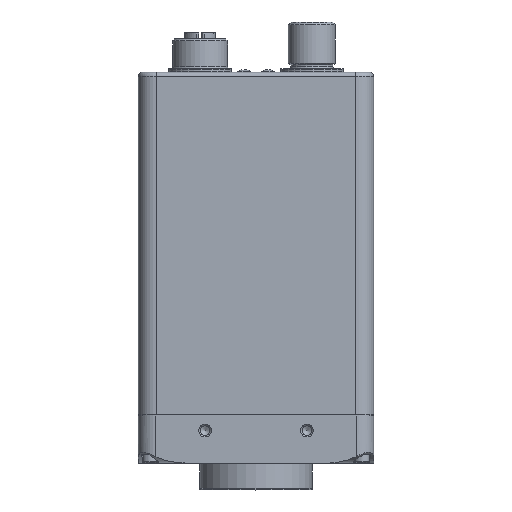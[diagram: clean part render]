
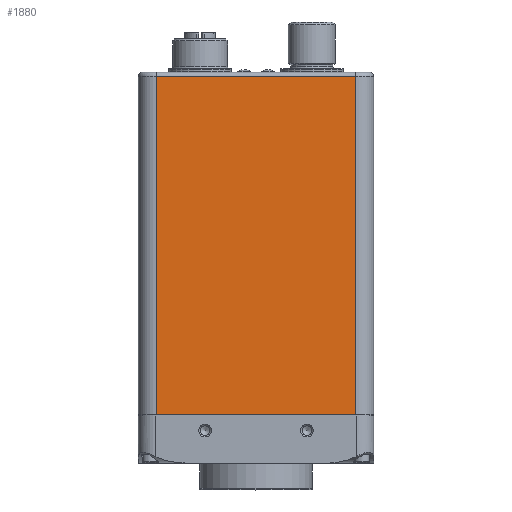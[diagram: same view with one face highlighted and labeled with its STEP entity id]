
A CAD part, top view. The second image highlights one B-rep face of the part: STEP entity #1880.
In plain terms, the highlighted planar face has unit normal (0, 0, 1).
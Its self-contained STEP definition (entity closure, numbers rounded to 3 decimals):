
#1880 = ADVANCED_FACE( '', ( #5241 ), #5242, .F. );
#5241 = FACE_OUTER_BOUND( '', #10753, .T. );
#5242 = PLANE( '', #10754 );
#10753 = EDGE_LOOP( '', ( #18319, #18320, #18321, #18322 ) );
#10754 = AXIS2_PLACEMENT_3D( '', #18323, #18324, #18325 );
#18319 = ORIENTED_EDGE( '', *, *, #30017, .F. );
#18320 = ORIENTED_EDGE( '', *, *, #30361, .T. );
#18321 = ORIENTED_EDGE( '', *, *, #29845, .T. );
#18322 = ORIENTED_EDGE( '', *, *, #30362, .T. );
#18323 = CARTESIAN_POINT( '', ( -25.488, 88.545, 29.988 ) );
#18324 = DIRECTION( '', ( 0., 0., -1. ) );
#18325 = DIRECTION( '', ( 0., 1., 0. ) );
#29845 = EDGE_CURVE( '', #34598, #34599, #34600, .T. );
#30017 = EDGE_CURVE( '', #34889, #34891, #34892, .T. );
#30361 = EDGE_CURVE( '', #34889, #34598, #35516, .F. );
#30362 = EDGE_CURVE( '', #34599, #34891, #35517, .T. );
#34598 = VERTEX_POINT( '', #41709 );
#34599 = VERTEX_POINT( '', #41710 );
#34600 = LINE( '', #41711, #41712 );
#34889 = VERTEX_POINT( '', #42341 );
#34891 = VERTEX_POINT( '', #42343 );
#34892 = LINE( '', #42344, #42345 );
#35516 = LINE( '', #43445, #43446 );
#35517 = LINE( '', #43447, #43448 );
#41709 = CARTESIAN_POINT( '', ( -25.488, 87.545, 29.988 ) );
#41710 = CARTESIAN_POINT( '', ( -25.488, 1.245, 29.988 ) );
#41711 = CARTESIAN_POINT( '', ( -25.488, 88.545, 29.988 ) );
#41712 = VECTOR( '', #52082, 1000. );
#42341 = CARTESIAN_POINT( '', ( 25.488, 87.545, 29.988 ) );
#42343 = CARTESIAN_POINT( '', ( 25.488, 1.245, 29.988 ) );
#42344 = CARTESIAN_POINT( '', ( 25.488, 88.545, 29.988 ) );
#42345 = VECTOR( '', #52305, 1000. );
#43445 = CARTESIAN_POINT( '', ( -25.488, 87.545, 29.988 ) );
#43446 = VECTOR( '', #52931, 1000. );
#43447 = CARTESIAN_POINT( '', ( -25.488, 1.245, 29.988 ) );
#43448 = VECTOR( '', #52932, 1000. );
#52082 = DIRECTION( '', ( 0., -1., 0. ) );
#52305 = DIRECTION( '', ( 0., -1., 0. ) );
#52931 = DIRECTION( '', ( 1., 0., 0. ) );
#52932 = DIRECTION( '', ( 1., 0., 0. ) );
